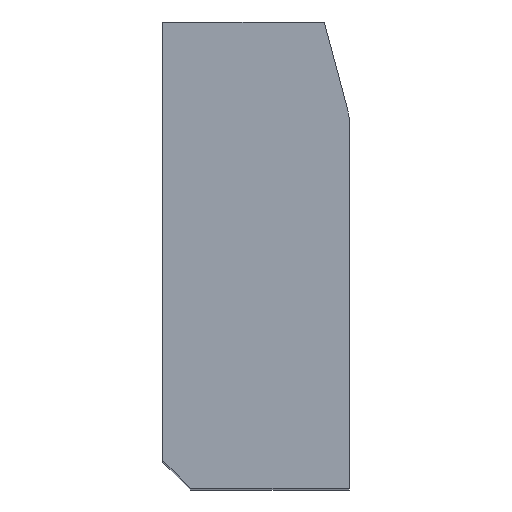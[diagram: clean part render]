
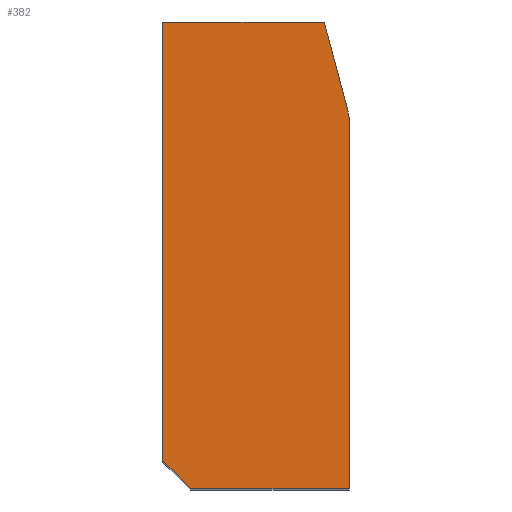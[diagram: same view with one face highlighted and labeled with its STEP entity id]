
A CAD part, top view. The second image highlights one B-rep face of the part: STEP entity #382.
In plain terms, the highlighted planar face has unit normal (0, 0, 1).
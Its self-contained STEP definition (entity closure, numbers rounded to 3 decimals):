
#70=CARTESIAN_POINT('Vertex',(0.,3.,50.)) ;
#73=CARTESIAN_POINT('Line Origine',(0.,26.5,50.)) ;
#77=CARTESIAN_POINT('Vertex',(0.,50.,50.)) ;
#320=CARTESIAN_POINT('Vertex',(3.,0.,50.)) ;
#323=CARTESIAN_POINT('Line Origine',(1.5,1.5,50.)) ;
#335=CARTESIAN_POINT('Axis2P3D Location',(15.,39.342,50.)) ;
#340=CARTESIAN_POINT('Line Origine',(11.5,0.,50.)) ;
#344=CARTESIAN_POINT('Vertex',(20.,0.,50.)) ;
#347=CARTESIAN_POINT('Line Origine',(20.,19.671,50.)) ;
#351=CARTESIAN_POINT('Vertex',(20.,39.342,50.)) ;
#354=CARTESIAN_POINT('Axis2P3D Location',(15.,39.342,50.)) ;
#358=CARTESIAN_POINT('Vertex',(19.83,40.636,50.)) ;
#361=CARTESIAN_POINT('Line Origine',(18.575,45.318,50.)) ;
#365=CARTESIAN_POINT('Vertex',(17.321,50.,50.)) ;
#368=CARTESIAN_POINT('Line Origine',(8.66,50.,50.)) ;
#74=DIRECTION('Vector Direction',(0.,-1.,0.)) ;
#324=DIRECTION('Vector Direction',(0.707,-0.707,0.)) ;
#336=DIRECTION('Axis2P3D Direction',(0.,0.,1.)) ;
#337=DIRECTION('Axis2P3D XDirection',(1.,0.,-0.)) ;
#341=DIRECTION('Vector Direction',(1.,0.,0.)) ;
#348=DIRECTION('Vector Direction',(0.,1.,0.)) ;
#355=DIRECTION('Axis2P3D Direction',(0.,0.,1.)) ;
#362=DIRECTION('Vector Direction',(-0.259,0.966,0.)) ;
#369=DIRECTION('Vector Direction',(-1.,0.,0.)) ;
#338=AXIS2_PLACEMENT_3D('Plane Axis2P3D',#335,#336,#337) ;
#356=AXIS2_PLACEMENT_3D('Circle Axis2P3D',#354,#355,$) ;
#374=ORIENTED_EDGE('',*,*,#79,.T.) ;
#375=ORIENTED_EDGE('',*,*,#327,.T.) ;
#376=ORIENTED_EDGE('',*,*,#346,.T.) ;
#377=ORIENTED_EDGE('',*,*,#353,.T.) ;
#378=ORIENTED_EDGE('',*,*,#360,.T.) ;
#379=ORIENTED_EDGE('',*,*,#367,.T.) ;
#380=ORIENTED_EDGE('',*,*,#372,.T.) ;
#75=VECTOR('Line Direction',#74,1.) ;
#325=VECTOR('Line Direction',#324,1.) ;
#342=VECTOR('Line Direction',#341,1.) ;
#349=VECTOR('Line Direction',#348,1.) ;
#363=VECTOR('Line Direction',#362,1.) ;
#370=VECTOR('Line Direction',#369,1.) ;
#382=ADVANCED_FACE('A915-100X50',(#381),#339,.T.) ;
#357=CIRCLE('generated circle',#356,5.) ;
#79=EDGE_CURVE('',#78,#71,#76,.T.) ;
#327=EDGE_CURVE('',#71,#321,#326,.T.) ;
#346=EDGE_CURVE('',#321,#345,#343,.T.) ;
#353=EDGE_CURVE('',#345,#352,#350,.T.) ;
#360=EDGE_CURVE('',#352,#359,#357,.T.) ;
#367=EDGE_CURVE('',#359,#366,#364,.T.) ;
#372=EDGE_CURVE('',#366,#78,#371,.T.) ;
#373=EDGE_LOOP('',(#374,#375,#376,#377,#378,#379,#380)) ;
#381=FACE_OUTER_BOUND('',#373,.T.) ;
#76=LINE('Line',#73,#75) ;
#326=LINE('Line',#323,#325) ;
#343=LINE('Line',#340,#342) ;
#350=LINE('Line',#347,#349) ;
#364=LINE('Line',#361,#363) ;
#371=LINE('Line',#368,#370) ;
#339=PLANE('Plane',#338) ;
#71=VERTEX_POINT('',#70) ;
#78=VERTEX_POINT('',#77) ;
#321=VERTEX_POINT('',#320) ;
#345=VERTEX_POINT('',#344) ;
#352=VERTEX_POINT('',#351) ;
#359=VERTEX_POINT('',#358) ;
#366=VERTEX_POINT('',#365) ;
